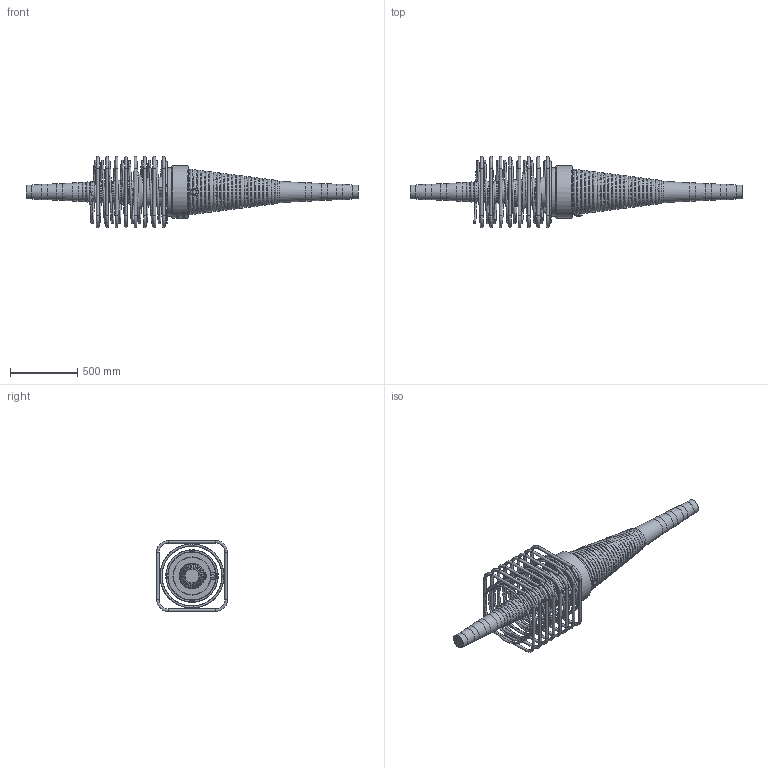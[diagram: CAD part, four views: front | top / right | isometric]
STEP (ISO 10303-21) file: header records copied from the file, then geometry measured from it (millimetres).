
FILE_DESCRIPTION(/* description */ (''),/* implementation_level */ '2;1');
FILE_NAME(/* name */ 'Z:\04 Publications\05 Give-out\BBR\6_3D_Models\BBR VT CONA CMI\BBR VT CONA CMI BT\03106\BBR VT CONA CMI BT 3106_Couler K Assembly_CS-34,28.stp',/* time_stamp */ '2017-05-05T10:46:49+02:00',/* author */ ('IP'),/* organization */ (''),/* preprocessor_version */ 'ST-DEVELOPER v16.1',/* originating_system */ 'Autodesk Inventor 2016',/* authorisation */ '');
FILE_SCHEMA (('AUTOMOTIVE_DESIGN { 1 0 10303 214 3 1 1 }'));
Products named in the file (1): BBR VT CONA CMI BT 3106_Couler K Assembly_CS-34,28
Bounding box: 2468.22 x 530 x 530 mm (x, y, z)
Volume: 91005939.5 mm3; surface area: 3516658.2 mm2
Topology: 10 solids, 10 shells, 1033 faces, 2599 edges, 1635 vertices
Faces by surface type: bspline 373, plane 311, torus 174, cylinder 124, cone 41, sphere 10
Full cylindrical faces by diameter (mm): 20 x32, 34 x1, 34.089 x1, 57 x1, 57.089 x1, 104 x2, 114 x2, 124 x2, 134 x2, 208 x1, 279 x1, 283 x1, 360 x1, 375 x1, 386 x1, 390 x1
Entity records: 42401 total; most frequent: CARTESIAN_POINT 20346, ORIENTED_EDGE 4676, DIRECTION 3601, EDGE_CURVE 2338, VERTEX_POINT 1625, AXIS2_PLACEMENT_3D 1355, EDGE_LOOP 1351, FACE_OUTER_BOUND 1033
